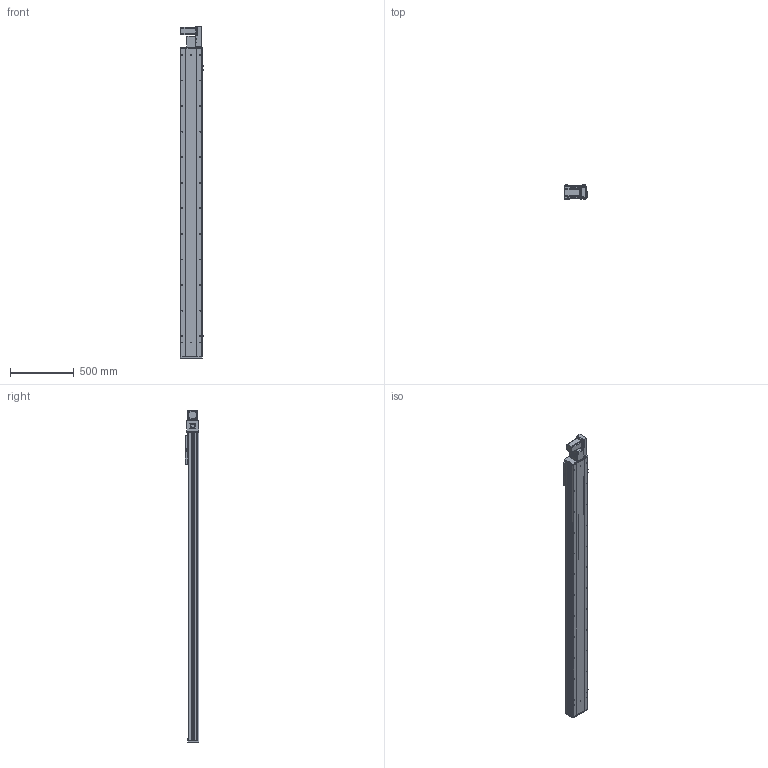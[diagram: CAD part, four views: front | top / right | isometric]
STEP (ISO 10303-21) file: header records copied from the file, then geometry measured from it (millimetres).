
FILE_DESCRIPTION (( 'STEP AP203' ), '1' );
FILE_NAME ('Y170CB-D105-S2100-BR-P400W.STEP', '2020-02-19T09:41:07', ( '微软用户' ), ( '微软中国' ), 'SwSTEP 2.0', 'SolidWorks 2017', '' );
FILE_SCHEMA (( 'CONFIG_CONTROL_DESIGN' ));
Length unit declared in the file: millimetre
Products named in the file (17): 70B喘謫眊----; B-源倛裔啣; 17B-耜蚾蟀諉啣----; 0B-萇儂楊擘啣; san松下电机400不带刹车----; Y70俋欶BR----; 70CB-掛极-; --70CB --喘謫眊楊擘啣-; 70CB-耜裔啣-; 70C--詩湍揤踡え-; 70CB--耜裔; 70C-雄赽釱-奻-; 0C--雄赽釱俋欶-170; 70CB-詩湍--; Y100-135俋离換覜ん--; Y170CB-陔俋离換覜結え---; Y170CB-D105-S2100-BR-P400W
Assembly tree (20 placements, depth 2):
  Y170CB-D105-S2100-BR-P400W
    70B喘謫眊----
    B-源倛裔啣
    17B-耜蚾蟀諉啣----
    0B-萇儂楊擘啣
    san松下电机400不带刹车----
    Y70俋欶BR----
    70CB-掛极-
    --70CB --喘謫眊楊擘啣-
    70CB-耜裔啣-  x2
    70C--詩湍揤踡え-  x2
    70CB--耜裔
    70C-雄赽釱-奻-
    0C--雄赽釱俋欶-170
    70CB-詩湍--
    Y100-135俋离換覜ん--  x3
    Y170CB-陔俋离換覜結え---
Bounding box: 183.5 x 107 x 2597 mm (x, y, z)
Volume: 10862814.1 mm3; surface area: 3910908.4 mm2
Topology: 20 solids, 20 shells, 1041 faces, 2801 edges, 1858 vertices
Faces by surface type: cylinder 555, plane 462, cone 24
Entity records: 33211 total; most frequent: CARTESIAN_POINT 6141, DIRECTION 5404, ORIENTED_EDGE 5084, EDGE_CURVE 2542, AXIS2_PLACEMENT_3D 1985, VERTEX_POINT 1688, VECTOR 1434, LINE 1434
